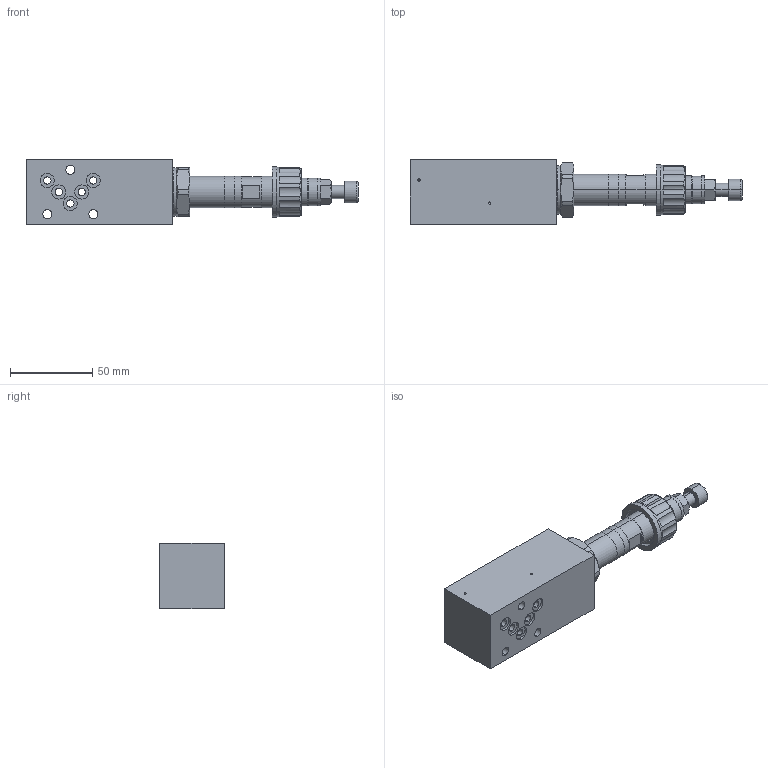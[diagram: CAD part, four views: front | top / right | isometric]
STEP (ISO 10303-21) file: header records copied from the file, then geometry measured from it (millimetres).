
FILE_DESCRIPTION (( 'STEP AP214' ), '1' );
FILE_NAME ('B.ISA04-B.STEP', '2017-03-23T14:58:15', ( '' ), ( '' ), 'SwSTEP 2.0', 'SolidWorks 2016', '' );
FILE_SCHEMA (( 'AUTOMOTIVE_DESIGN' ));
Length unit declared in the file: millimetre
Products named in the file (1): B.ISA04-B
Bounding box: 202.3 x 39.5 x 40 mm (x, y, z)
Volume: 172724.3 mm3; surface area: 33294 mm2
Topology: 2 solids, 2 shells, 396 faces, 978 edges, 618 vertices
Faces by surface type: plane 194, cylinder 100, cone 64, bspline 22, torus 14, sphere 2
Entity records: 17265 total; most frequent: CARTESIAN_POINT 3531, ORIENTED_EDGE 1940, DIRECTION 1919, EDGE_CURVE 970, AXIS2_PLACEMENT_3D 692, VERTEX_POINT 618, LINE 535, VECTOR 535
